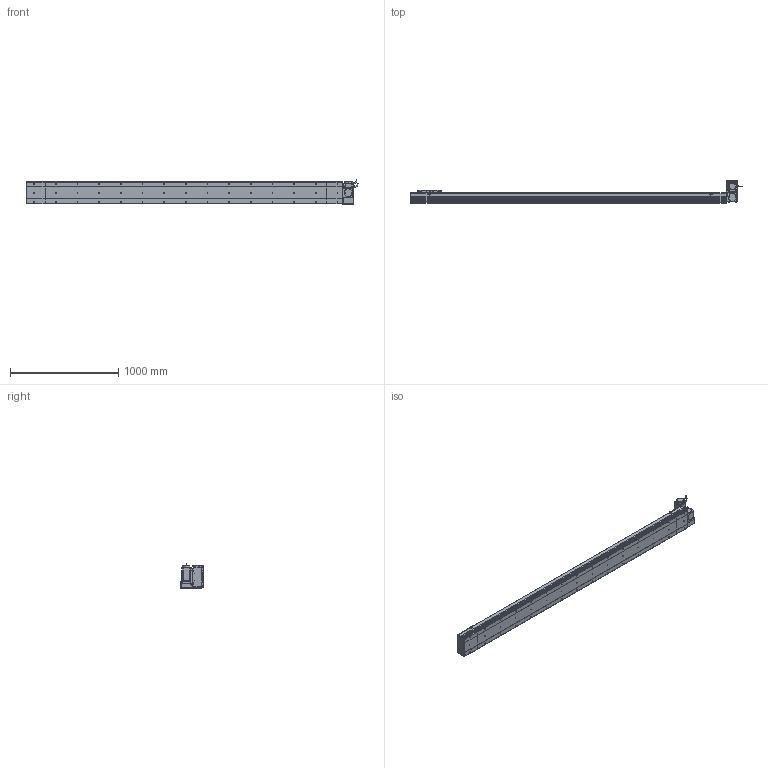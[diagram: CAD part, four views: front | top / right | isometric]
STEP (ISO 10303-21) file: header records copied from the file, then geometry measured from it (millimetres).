
FILE_DESCRIPTION (( 'STEP AP214' ), '1' );
FILE_NAME ('D20 CBH RT S2600.STEP', '2010-06-30T10:20:25', ( 'Conseil Régional Haute-Normandie' ), ( 'Conseil Régional Haute-Normandie' ), 'SwSTEP 2.0', 'SolidWorks 2010', '' );
FILE_SCHEMA (( 'AUTOMOTIVE_DESIGN' ));
Length unit declared in the file: millimetre
Products named in the file (31): Support moteur RT_Default; Head RT_Default; codeur 90BLDC125-640; D20 CBH RT S2600; avant 90BLDC125A-640; Conecteur_Default; Couvercle RT_Default; Plaque De Serrage D20 RT_Default; Plaque de Bout Head D20 RT_Default; Cache Support Moteur RT_Default; ecrou_Default; vis M5 L30_Default; Corp D20 S2600_Default; Rondelle Cache D20 RT_Default; vis M5 L47_Default; Chariot D20_Default; Couvercle S2600_Default; Corp S2600_Default; Tail D20_Default; Glissiere_Default; Support Chariot D20_Default; Plaque de Bout Tail D20_Default; Couvercle_Default; Corp Tail D20_Default; vis M5 L15_Default; Plaque De Serrage D20_Default; corps 90BLDC125A-640; Corp Tail D20 RT_Default; Conecteur2_Default; Moteur motionking 90BLDC125A-640
Assembly tree (68 placements, depth 4):
  D20 CBH RT S2600
    Head RT_Default
      Cache Support Moteur RT_Default
      vis M5 L15_Default  x14
      Couvercle RT_Default
      ecrou_Default  x4
      Corp Tail D20 RT_Default
      vis M5 L47_Default  x4
      Plaque de Bout Head D20 RT_Default
      Support moteur RT_Default
      vis M5 L30_Default  x4
      Rondelle Cache D20 RT_Default  x3
      Plaque De Serrage D20 RT_Default
      Moteur motionking 90BLDC125A-640
        avant 90BLDC125A-640
        Conecteur_Default
        codeur 90BLDC125-640
        corps 90BLDC125A-640
        Conecteur2_Default
    Tail D20_Default
      vis M5 L15_Default  x6
      Plaque De Serrage D20_Default
      Corp Tail D20_Default
      Couvercle_Default
      Plaque de Bout Tail D20_Default
    Corp D20 S2600_Default
      Corp S2600_Default
      Couvercle S2600_Default
    Chariot D20_Default
      Support Chariot D20_Default
      Glissiere_Default
      vis M5 L15_Default  x8
      Chariot D20_Default
Bounding box: 3064.45 x 206.5 x 229.7 mm (x, y, z)
Volume: 20715135.1 mm3; surface area: 4005424.5 mm2
Topology: 105 solids, 105 shells, 3844 faces, 9552 edges, 6202 vertices
Faces by surface type: plane 2137, bspline 806, cylinder 730, torus 95, cone 72, sphere 4
Entity records: 160142 total; most frequent: CARTESIAN_POINT 82430, ORIENTED_EDGE 15372, DIRECTION 11758, EDGE_CURVE 7686, VERTEX_POINT 5086, VECTOR 4954, LINE 4954, AXIS2_PLACEMENT_3D 3402
